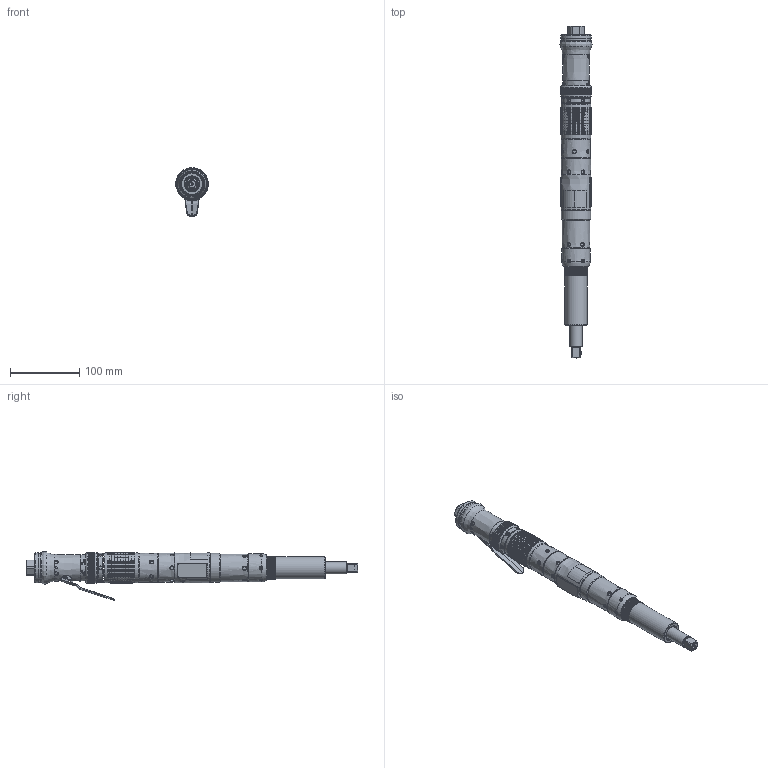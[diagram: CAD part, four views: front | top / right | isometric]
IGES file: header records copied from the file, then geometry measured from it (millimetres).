
Global section: file name: T:\siji\siji2\QA6 STRAIGHT SHUTOFF\16595100\16595100.igs; native system: Unigraphics Version X V2.0; preprocessor: Unigraphics NX IGES V2.0; date: 20070511.105342; units: inch
Bounding box: 46.21 x 477.91 x 70.45 mm (x, y, z)
Surface area: 86354.5 mm2 (no closed solid volume)
Topology: 0 solids, 0 shells, 1084 faces, 13501 edges, 13337 vertices
Faces by surface type: revolution 596, extrusion 458, bspline 28, offset 2
